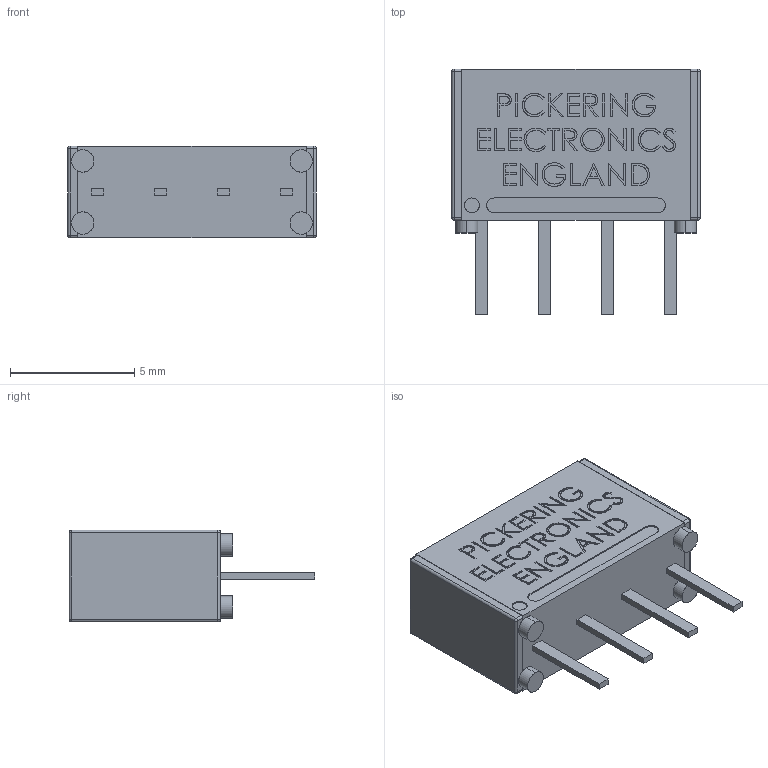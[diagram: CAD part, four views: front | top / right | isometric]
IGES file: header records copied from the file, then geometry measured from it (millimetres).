
Start section: SolidWorks IGES file using analytic representation for surfaces
Global section: file name: T:\Relays in Solidworks\Batch 1\111-1-A.IGS; native system: SolidWorks 2009; preprocessor: SolidWorks 2009; author: alex.leming; date: 100629.115725; units: millimetre
Bounding box: 10 x 9.9 x 3.7 mm (x, y, z)
Surface area: 374.8 mm2 (no closed solid volume)
Topology: 0 solids, 0 shells, 790 faces, 6361 edges, 6353 vertices
Faces by surface type: bspline 750, revolution 40
